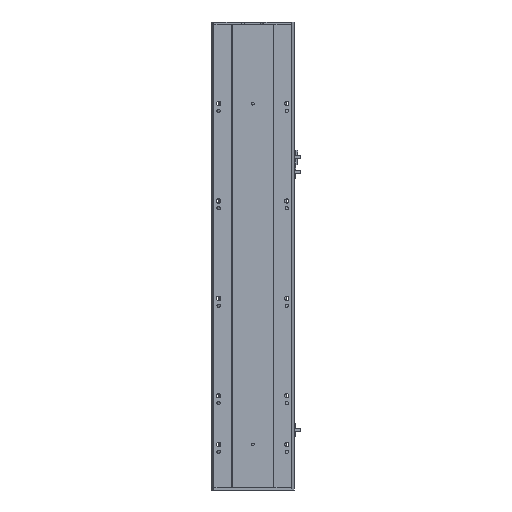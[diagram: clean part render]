
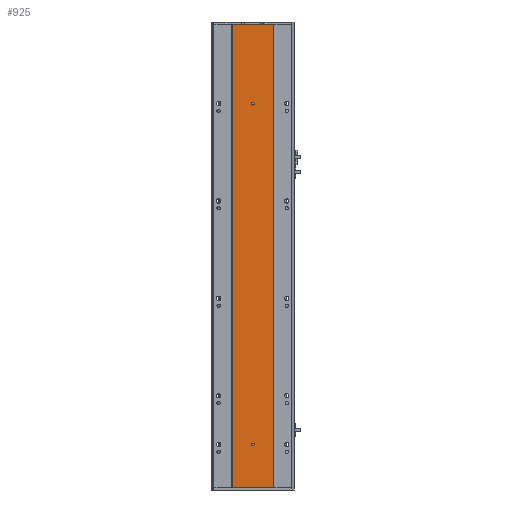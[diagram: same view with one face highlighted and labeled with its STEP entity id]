
A CAD part, front view. The second image highlights one B-rep face of the part: STEP entity #925.
In plain terms, the highlighted planar face has unit normal (0, -1, 0).
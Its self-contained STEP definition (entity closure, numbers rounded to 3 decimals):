
#234 = ORIENTED_EDGE ( 'NONE', *, *, #19012, .T. ) ;
#398 = DIRECTION ( 'NONE',  ( 0., 1., 0. ) ) ;
#826 = DIRECTION ( 'NONE',  ( 0., 0., 1. ) ) ;
#925 = ADVANCED_FACE ( 'NONE', ( #9413, #13922, #24164 ), #10801, .F. ) ;
#1152 = CARTESIAN_POINT ( 'NONE',  ( 42.916, 2.57, 0. ) ) ;
#1400 = CIRCLE ( 'NONE', #23607, 3. ) ;
#1412 = CARTESIAN_POINT ( 'NONE',  ( 85., 2.57, 85.5 ) ) ;
#1491 = LINE ( 'NONE', #21354, #21308 ) ;
#1845 = LINE ( 'NONE', #4362, #13834 ) ;
#1945 = CARTESIAN_POINT ( 'NONE',  ( 126.916, 2.57, 951. ) ) ;
#2876 = VERTEX_POINT ( 'NONE', #21286 ) ;
#3187 = CARTESIAN_POINT ( 'NONE',  ( 85., 2.57, 791.5 ) ) ;
#3485 = ORIENTED_EDGE ( 'NONE', *, *, #24849, .T. ) ;
#3763 = LINE ( 'NONE', #5365, #8260 ) ;
#3835 = LINE ( 'NONE', #12482, #18523 ) ;
#4022 = CIRCLE ( 'NONE', #23401, 3. ) ;
#4104 = AXIS2_PLACEMENT_3D ( 'NONE', #1152, #23749, #16971 ) ;
#4362 = CARTESIAN_POINT ( 'NONE',  ( 42.916, 2.57, 0. ) ) ;
#4773 = ORIENTED_EDGE ( 'NONE', *, *, #10716, .T. ) ;
#4974 = CARTESIAN_POINT ( 'NONE',  ( 85., 2.57, 88.5 ) ) ;
#5365 = CARTESIAN_POINT ( 'NONE',  ( 42.916, 2.57, 0. ) ) ;
#6915 = DIRECTION ( 'NONE',  ( 0., 0., 1. ) ) ;
#6979 = DIRECTION ( 'NONE',  ( 0., 1., 0. ) ) ;
#7114 = ORIENTED_EDGE ( 'NONE', *, *, #12942, .T. ) ;
#7176 = EDGE_LOOP ( 'NONE', ( #234, #24662, #14031, #20467 ) ) ;
#7558 = CARTESIAN_POINT ( 'NONE',  ( 126.916, 2.57, 0. ) ) ;
#8260 = VECTOR ( 'NONE', #9216, 1000. ) ;
#8993 = VERTEX_POINT ( 'NONE', #7558 ) ;
#9216 = DIRECTION ( 'NONE',  ( -1., 0., 0. ) ) ;
#9229 = CIRCLE ( 'NONE', #10904, 3. ) ;
#9413 = FACE_BOUND ( 'NONE', #12855, .T. ) ;
#9560 = CIRCLE ( 'NONE', #15230, 3. ) ;
#9631 = VERTEX_POINT ( 'NONE', #3187 ) ;
#10635 = DIRECTION ( 'NONE',  ( -1., 0., 0. ) ) ;
#10716 = EDGE_CURVE ( 'NONE', #2876, #9631, #4022, .T. ) ;
#10801 = PLANE ( 'NONE',  #4104 ) ;
#10904 = AXIS2_PLACEMENT_3D ( 'NONE', #4974, #18394, #6915 ) ;
#11544 = CARTESIAN_POINT ( 'NONE',  ( 85., 2.57, 91.5 ) ) ;
#11872 = CARTESIAN_POINT ( 'NONE',  ( 85., 2.57, 788.5 ) ) ;
#12325 = DIRECTION ( 'NONE',  ( 0., 1., 0. ) ) ;
#12482 = CARTESIAN_POINT ( 'NONE',  ( 42.916, 2.57, 951. ) ) ;
#12855 = EDGE_LOOP ( 'NONE', ( #14737, #3485 ) ) ;
#12942 = EDGE_CURVE ( 'NONE', #9631, #2876, #9560, .T. ) ;
#13207 = CARTESIAN_POINT ( 'NONE',  ( 42.916, 2.57, 951. ) ) ;
#13229 = EDGE_CURVE ( 'NONE', #16860, #20978, #9229, .T. ) ;
#13809 = DIRECTION ( 'NONE',  ( 0., 0., 1. ) ) ;
#13834 = VECTOR ( 'NONE', #17776, 1000. ) ;
#13922 = FACE_BOUND ( 'NONE', #20404, .T. ) ;
#13979 = VERTEX_POINT ( 'NONE', #13207 ) ;
#14031 = ORIENTED_EDGE ( 'NONE', *, *, #20378, .F. ) ;
#14737 = ORIENTED_EDGE ( 'NONE', *, *, #13229, .T. ) ;
#15230 = AXIS2_PLACEMENT_3D ( 'NONE', #11872, #398, #13809 ) ;
#16860 = VERTEX_POINT ( 'NONE', #1412 ) ;
#16971 = DIRECTION ( 'NONE',  ( 0., 0., 1. ) ) ;
#17542 = DIRECTION ( 'NONE',  ( 0., 0., 1. ) ) ;
#17776 = DIRECTION ( 'NONE',  ( 0., 0., 1. ) ) ;
#18170 = EDGE_CURVE ( 'NONE', #8993, #22077, #1491, .T. ) ;
#18394 = DIRECTION ( 'NONE',  ( 0., 1., 0. ) ) ;
#18459 = CARTESIAN_POINT ( 'NONE',  ( 85., 2.57, 788.5 ) ) ;
#18523 = VECTOR ( 'NONE', #10635, 1000. ) ;
#18589 = VERTEX_POINT ( 'NONE', #22664 ) ;
#19012 = EDGE_CURVE ( 'NONE', #22077, #13979, #3835, .T. ) ;
#20378 = EDGE_CURVE ( 'NONE', #8993, #18589, #3763, .T. ) ;
#20404 = EDGE_LOOP ( 'NONE', ( #4773, #7114 ) ) ;
#20411 = DIRECTION ( 'NONE',  ( 0., 0., 1. ) ) ;
#20467 = ORIENTED_EDGE ( 'NONE', *, *, #18170, .T. ) ;
#20978 = VERTEX_POINT ( 'NONE', #11544 ) ;
#21286 = CARTESIAN_POINT ( 'NONE',  ( 85., 2.57, 785.5 ) ) ;
#21308 = VECTOR ( 'NONE', #17542, 1000. ) ;
#21354 = CARTESIAN_POINT ( 'NONE',  ( 126.916, 2.57, 0. ) ) ;
#22077 = VERTEX_POINT ( 'NONE', #1945 ) ;
#22244 = EDGE_CURVE ( 'NONE', #18589, #13979, #1845, .T. ) ;
#22664 = CARTESIAN_POINT ( 'NONE',  ( 42.916, 2.57, 0. ) ) ;
#23401 = AXIS2_PLACEMENT_3D ( 'NONE', #18459, #6979, #20411 ) ;
#23607 = AXIS2_PLACEMENT_3D ( 'NONE', #23823, #12325, #826 ) ;
#23749 = DIRECTION ( 'NONE',  ( 0., 1., 0. ) ) ;
#23823 = CARTESIAN_POINT ( 'NONE',  ( 85., 2.57, 88.5 ) ) ;
#24164 = FACE_OUTER_BOUND ( 'NONE', #7176, .T. ) ;
#24662 = ORIENTED_EDGE ( 'NONE', *, *, #22244, .F. ) ;
#24849 = EDGE_CURVE ( 'NONE', #20978, #16860, #1400, .T. ) ;
